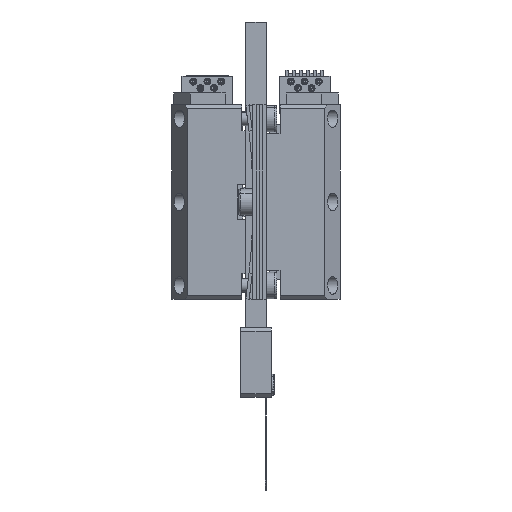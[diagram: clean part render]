
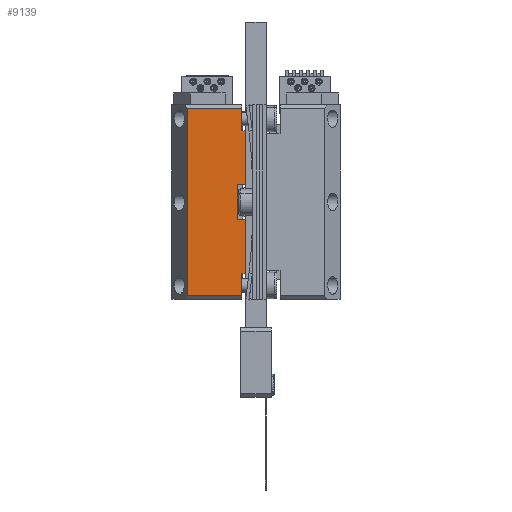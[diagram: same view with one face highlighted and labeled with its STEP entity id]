
A CAD part, left-side view. The second image highlights one B-rep face of the part: STEP entity #9139.
In plain terms, the highlighted planar face has unit normal (-1, 0, 0).
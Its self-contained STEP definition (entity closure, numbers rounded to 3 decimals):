
#189 = ORIENTED_EDGE ( 'NONE', *, *, #26834, .T. ) ;
#628 = EDGE_CURVE ( 'NONE', #21359, #13230, #39087, .T. ) ;
#633 = LINE ( 'NONE', #29802, #29322 ) ;
#1418 = VERTEX_POINT ( 'NONE', #35770 ) ;
#1598 = DIRECTION ( 'NONE',  ( 0., -1., 0. ) ) ;
#1929 = ORIENTED_EDGE ( 'NONE', *, *, #27533, .T. ) ;
#2469 = CARTESIAN_POINT ( 'NONE',  ( -7., 3.56, -10.3 ) ) ;
#2644 = ORIENTED_EDGE ( 'NONE', *, *, #12604, .T. ) ;
#2954 = CARTESIAN_POINT ( 'NONE',  ( -7., 3., -14. ) ) ;
#2973 = VECTOR ( 'NONE', #19237, 1000. ) ;
#3612 = EDGE_CURVE ( 'NONE', #16688, #13230, #18722, .T. ) ;
#3930 = VERTEX_POINT ( 'NONE', #38739 ) ;
#4221 = DIRECTION ( 'NONE',  ( 0., 0., -1. ) ) ;
#4996 = CARTESIAN_POINT ( 'NONE',  ( -7., 4.16, 2.5 ) ) ;
#5157 = VERTEX_POINT ( 'NONE', #8261 ) ;
#5319 = VECTOR ( 'NONE', #14738, 1000. ) ;
#5329 = DIRECTION ( 'NONE',  ( 0., 0., -1. ) ) ;
#5346 = DIRECTION ( 'NONE',  ( 0., 0., 1. ) ) ;
#5534 = LINE ( 'NONE', #7696, #19129 ) ;
#5903 = CARTESIAN_POINT ( 'NONE',  ( -7., 11.412, -14. ) ) ;
#6295 = CARTESIAN_POINT ( 'NONE',  ( -7., 3.56, 13.5 ) ) ;
#6488 = AXIS2_PLACEMENT_3D ( 'NONE', #8490, #26830, #5346 ) ;
#6815 = EDGE_LOOP ( 'NONE', ( #33760, #27255, #27807, #31885, #189, #31024, #30961, #33538, #1929, #30420, #2644, #26432 ) ) ;
#7696 = CARTESIAN_POINT ( 'NONE',  ( -7., 3.56, -10.3 ) ) ;
#7981 = CARTESIAN_POINT ( 'NONE',  ( -7., 14.01, 13.5 ) ) ;
#8019 = EDGE_CURVE ( 'NONE', #3930, #12682, #9330, .T. ) ;
#8123 = DIRECTION ( 'NONE',  ( 0., -1., 0. ) ) ;
#8261 = CARTESIAN_POINT ( 'NONE',  ( -7., 11.412, 13.5 ) ) ;
#8490 = CARTESIAN_POINT ( 'NONE',  ( -7., 14.01, 17.5 ) ) ;
#8556 = VECTOR ( 'NONE', #21793, 1000. ) ;
#9139 = ADVANCED_FACE ( 'NONE', ( #39754 ), #38593, .F. ) ;
#9282 = DIRECTION ( 'NONE',  ( 0., 0., -1. ) ) ;
#9330 = LINE ( 'NONE', #37908, #2973 ) ;
#11933 = VECTOR ( 'NONE', #11952, 1000. ) ;
#11952 = DIRECTION ( 'NONE',  ( 0., 0., 1. ) ) ;
#11975 = LINE ( 'NONE', #29214, #24096 ) ;
#12604 = EDGE_CURVE ( 'NONE', #32200, #1418, #633, .T. ) ;
#12682 = VERTEX_POINT ( 'NONE', #26682 ) ;
#12812 = CARTESIAN_POINT ( 'NONE',  ( -7., 3., 10.3 ) ) ;
#13230 = VERTEX_POINT ( 'NONE', #12812 ) ;
#13582 = LINE ( 'NONE', #5903, #5319 ) ;
#14282 = CARTESIAN_POINT ( 'NONE',  ( -7., 4.16, 2.5 ) ) ;
#14443 = LINE ( 'NONE', #23356, #15416 ) ;
#14639 = EDGE_CURVE ( 'NONE', #23375, #40086, #5534, .T. ) ;
#14738 = DIRECTION ( 'NONE',  ( 0., 0., 1. ) ) ;
#15416 = VECTOR ( 'NONE', #5329, 1000. ) ;
#16688 = VERTEX_POINT ( 'NONE', #27252 ) ;
#16988 = CARTESIAN_POINT ( 'NONE',  ( -7., 3., -14. ) ) ;
#18341 = VECTOR ( 'NONE', #29197, 1000. ) ;
#18722 = LINE ( 'NONE', #40149, #8556 ) ;
#19129 = VECTOR ( 'NONE', #1598, 1000. ) ;
#19237 = DIRECTION ( 'NONE',  ( 0., -1., 0. ) ) ;
#19295 = LINE ( 'NONE', #7981, #18341 ) ;
#21359 = VERTEX_POINT ( 'NONE', #24328 ) ;
#21793 = DIRECTION ( 'NONE',  ( 0., -1., 0. ) ) ;
#22407 = EDGE_CURVE ( 'NONE', #23375, #1418, #11975, .T. ) ;
#23356 = CARTESIAN_POINT ( 'NONE',  ( -7., 4.16, -2.5 ) ) ;
#23375 = VERTEX_POINT ( 'NONE', #2469 ) ;
#24096 = VECTOR ( 'NONE', #4221, 1000. ) ;
#24328 = CARTESIAN_POINT ( 'NONE',  ( -7., 3., 2.5 ) ) ;
#24810 = VERTEX_POINT ( 'NONE', #14282 ) ;
#25106 = VECTOR ( 'NONE', #9282, 1000. ) ;
#25132 = CARTESIAN_POINT ( 'NONE',  ( -7., 3.56, 14. ) ) ;
#25426 = CARTESIAN_POINT ( 'NONE',  ( -7., 11.412, -13.5 ) ) ;
#25745 = VECTOR ( 'NONE', #29602, 1000. ) ;
#26432 = ORIENTED_EDGE ( 'NONE', *, *, #22407, .F. ) ;
#26682 = CARTESIAN_POINT ( 'NONE',  ( -7., 3., -2.5 ) ) ;
#26830 = DIRECTION ( 'NONE',  ( 1., 0., 0. ) ) ;
#26834 = EDGE_CURVE ( 'NONE', #24810, #21359, #28181, .T. ) ;
#27252 = CARTESIAN_POINT ( 'NONE',  ( -7., 3.56, 10.3 ) ) ;
#27255 = ORIENTED_EDGE ( 'NONE', *, *, #37337, .T. ) ;
#27533 = EDGE_CURVE ( 'NONE', #38865, #5157, #19295, .T. ) ;
#27807 = ORIENTED_EDGE ( 'NONE', *, *, #8019, .F. ) ;
#28181 = LINE ( 'NONE', #4996, #33977 ) ;
#29197 = DIRECTION ( 'NONE',  ( 0., 1., 0. ) ) ;
#29214 = CARTESIAN_POINT ( 'NONE',  ( -7., 3.56, -10.3 ) ) ;
#29322 = VECTOR ( 'NONE', #33032, 1000. ) ;
#29602 = DIRECTION ( 'NONE',  ( 0., 0., 1. ) ) ;
#29802 = CARTESIAN_POINT ( 'NONE',  ( -7., 3.56, -13.5 ) ) ;
#29805 = CARTESIAN_POINT ( 'NONE',  ( -7., 3., -10.3 ) ) ;
#30420 = ORIENTED_EDGE ( 'NONE', *, *, #33196, .F. ) ;
#30961 = ORIENTED_EDGE ( 'NONE', *, *, #3612, .F. ) ;
#31024 = ORIENTED_EDGE ( 'NONE', *, *, #628, .T. ) ;
#31885 = ORIENTED_EDGE ( 'NONE', *, *, #39146, .F. ) ;
#32200 = VERTEX_POINT ( 'NONE', #25426 ) ;
#32786 = EDGE_CURVE ( 'NONE', #38865, #16688, #35314, .T. ) ;
#33032 = DIRECTION ( 'NONE',  ( 0., -1., 0. ) ) ;
#33196 = EDGE_CURVE ( 'NONE', #32200, #5157, #13582, .T. ) ;
#33538 = ORIENTED_EDGE ( 'NONE', *, *, #32786, .F. ) ;
#33760 = ORIENTED_EDGE ( 'NONE', *, *, #14639, .T. ) ;
#33967 = LINE ( 'NONE', #16988, #25745 ) ;
#33977 = VECTOR ( 'NONE', #8123, 1000. ) ;
#35314 = LINE ( 'NONE', #25132, #25106 ) ;
#35770 = CARTESIAN_POINT ( 'NONE',  ( -7., 3.56, -13.5 ) ) ;
#37337 = EDGE_CURVE ( 'NONE', #40086, #12682, #33967, .T. ) ;
#37908 = CARTESIAN_POINT ( 'NONE',  ( -7., 4.16, -2.5 ) ) ;
#38593 = PLANE ( 'NONE',  #6488 ) ;
#38739 = CARTESIAN_POINT ( 'NONE',  ( -7., 4.16, -2.5 ) ) ;
#38865 = VERTEX_POINT ( 'NONE', #6295 ) ;
#39087 = LINE ( 'NONE', #2954, #11933 ) ;
#39146 = EDGE_CURVE ( 'NONE', #24810, #3930, #14443, .T. ) ;
#39754 = FACE_OUTER_BOUND ( 'NONE', #6815, .T. ) ;
#40086 = VERTEX_POINT ( 'NONE', #29805 ) ;
#40149 = CARTESIAN_POINT ( 'NONE',  ( -7., 3.56, 10.3 ) ) ;
